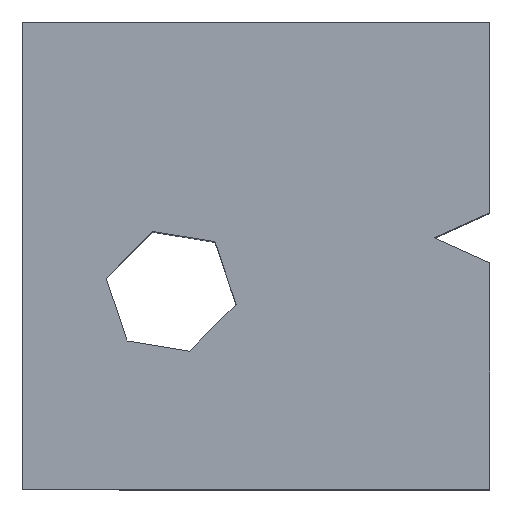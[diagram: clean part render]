
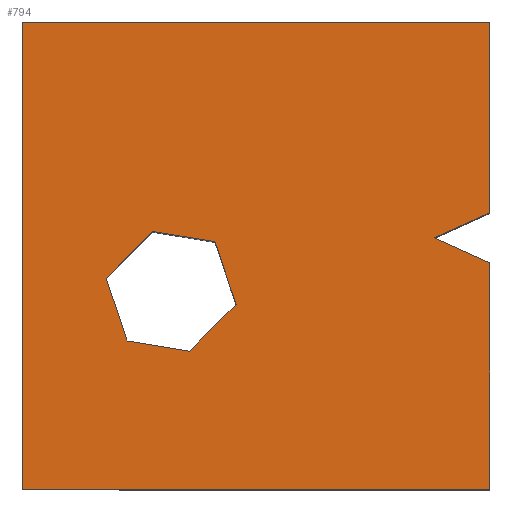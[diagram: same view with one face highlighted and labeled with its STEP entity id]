
A CAD part, top view. The second image highlights one B-rep face of the part: STEP entity #794.
In plain terms, the highlighted planar face has unit normal (0, 0, 1).
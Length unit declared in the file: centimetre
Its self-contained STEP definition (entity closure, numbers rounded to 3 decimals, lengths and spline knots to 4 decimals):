
#5 = ORIENTED_EDGE ( 'NONE', *, *, #927, .T. ) ;
#6 = FACE_BOUND ( 'NONE', #181, .T. ) ;
#19 = DIRECTION ( 'NONE',  ( -0.707, -0.707, 0. ) ) ;
#26 = CARTESIAN_POINT ( 'NONE',  ( 882.1758, 538.0468, 1000. ) ) ;
#32 = DIRECTION ( 'NONE',  ( -0.319, 0.948, 0. ) ) ;
#37 = VECTOR ( 'NONE', #112, 100. ) ;
#51 = VECTOR ( 'NONE', #872, 100. ) ;
#70 = VERTEX_POINT ( 'NONE', #121 ) ;
#83 = CARTESIAN_POINT ( 'NONE',  ( 412.1647, 529.9867, 1000. ) ) ;
#101 = DIRECTION ( 'NONE',  ( 0.91, 0.414, 0. ) ) ;
#107 = CARTESIAN_POINT ( 'NONE',  ( 224.5377, 317.1656, 1000. ) ) ;
#112 = DIRECTION ( 'NONE',  ( 0.707, 0.707, 0. ) ) ;
#114 = EDGE_CURVE ( 'NONE', #331, #305, #141, .T. ) ;
#121 = CARTESIAN_POINT ( 'NONE',  ( 357.3001, 295.4246, 1000. ) ) ;
#139 = ORIENTED_EDGE ( 'NONE', *, *, #114, .T. ) ;
#140 = CARTESIAN_POINT ( 'NONE',  ( 1000., 591.5848, 1000. ) ) ;
#141 = LINE ( 'NONE', #591, #607 ) ;
#147 = ORIENTED_EDGE ( 'NONE', *, *, #929, .T. ) ;
#161 = ORIENTED_EDGE ( 'NONE', *, *, #387, .T. ) ;
#181 = EDGE_LOOP ( 'NONE', ( #241, #1017, #795, #652, #161, #605 ) ) ;
#200 = VECTOR ( 'NONE', #582, 100. ) ;
#202 = CARTESIAN_POINT ( 'NONE',  ( 179.2902, 451.6157, 1000. ) ) ;
#207 = CARTESIAN_POINT ( 'NONE',  ( 0., 1000., 1000. ) ) ;
#236 = LINE ( 'NONE', #513, #896 ) ;
#241 = ORIENTED_EDGE ( 'NONE', *, *, #977, .T. ) ;
#248 = LINE ( 'NONE', #343, #790 ) ;
#257 = CARTESIAN_POINT ( 'NONE',  ( 1000., 1000., 1000. ) ) ;
#267 = DIRECTION ( 'NONE',  ( 0., 1., 0. ) ) ;
#275 = LINE ( 'NONE', #550, #712 ) ;
#278 = VECTOR ( 'NONE', #101, 100. ) ;
#289 = CARTESIAN_POINT ( 'NONE',  ( 0., 0., 1000. ) ) ;
#305 = VERTEX_POINT ( 'NONE', #356 ) ;
#312 = LINE ( 'NONE', #572, #200 ) ;
#325 = VERTEX_POINT ( 'NONE', #472 ) ;
#328 = CARTESIAN_POINT ( 'NONE',  ( 457.4121, 395.5366, 1000. ) ) ;
#331 = VERTEX_POINT ( 'NONE', #289 ) ;
#343 = CARTESIAN_POINT ( 'NONE',  ( 1000., 484.5089, 1000. ) ) ;
#355 = PLANE ( 'NONE',  #1006 ) ;
#356 = CARTESIAN_POINT ( 'NONE',  ( 1000., 0., 1000. ) ) ;
#363 = DIRECTION ( 'NONE',  ( 0.319, -0.948, 0. ) ) ;
#382 = VECTOR ( 'NONE', #413, 100. ) ;
#387 = EDGE_CURVE ( 'NONE', #665, #70, #275, .T. ) ;
#409 = DIRECTION ( 'NONE',  ( 1., 0., 0. ) ) ;
#413 = DIRECTION ( 'NONE',  ( -0.987, 0.162, 0. ) ) ;
#436 = CARTESIAN_POINT ( 'NONE',  ( 224.5377, 317.1656, 1000. ) ) ;
#454 = LINE ( 'NONE', #900, #863 ) ;
#470 = LINE ( 'NONE', #26, #278 ) ;
#472 = CARTESIAN_POINT ( 'NONE',  ( 882.1758, 538.0468, 1000. ) ) ;
#480 = EDGE_CURVE ( 'NONE', #682, #1111, #312, .T. ) ;
#513 = CARTESIAN_POINT ( 'NONE',  ( 1000., 1000., 1000. ) ) ;
#519 = CARTESIAN_POINT ( 'NONE',  ( 0., 1000., 1000. ) ) ;
#525 = LINE ( 'NONE', #519, #51 ) ;
#535 = FACE_OUTER_BOUND ( 'NONE', #1056, .T. ) ;
#550 = CARTESIAN_POINT ( 'NONE',  ( 457.4121, 395.5366, 1000. ) ) ;
#560 = EDGE_CURVE ( 'NONE', #70, #1100, #994, .T. ) ;
#572 = CARTESIAN_POINT ( 'NONE',  ( 279.4022, 551.7277, 1000. ) ) ;
#582 = DIRECTION ( 'NONE',  ( 0.987, -0.162, 0. ) ) ;
#591 = CARTESIAN_POINT ( 'NONE',  ( 0., 0., 1000. ) ) ;
#598 = ORIENTED_EDGE ( 'NONE', *, *, #644, .T. ) ;
#601 = ORIENTED_EDGE ( 'NONE', *, *, #723, .T. ) ;
#605 = ORIENTED_EDGE ( 'NONE', *, *, #560, .T. ) ;
#607 = VECTOR ( 'NONE', #409, 100. ) ;
#616 = DIRECTION ( 'NONE',  ( 1., 0., 0. ) ) ;
#619 = ORIENTED_EDGE ( 'NONE', *, *, #782, .T. ) ;
#622 = VERTEX_POINT ( 'NONE', #140 ) ;
#628 = VECTOR ( 'NONE', #32, 100. ) ;
#644 = EDGE_CURVE ( 'NONE', #622, #909, #236, .T. ) ;
#652 = ORIENTED_EDGE ( 'NONE', *, *, #993, .T. ) ;
#665 = VERTEX_POINT ( 'NONE', #328 ) ;
#682 = VERTEX_POINT ( 'NONE', #943 ) ;
#685 = CARTESIAN_POINT ( 'NONE',  ( 179.2902, 451.6157, 1000. ) ) ;
#701 = VECTOR ( 'NONE', #267, 100. ) ;
#706 = VERTEX_POINT ( 'NONE', #685 ) ;
#712 = VECTOR ( 'NONE', #19, 100. ) ;
#723 = EDGE_CURVE ( 'NONE', #305, #845, #1020, .T. ) ;
#739 = EDGE_CURVE ( 'NONE', #909, #946, #525, .T. ) ;
#782 = EDGE_CURVE ( 'NONE', #845, #325, #248, .T. ) ;
#790 = VECTOR ( 'NONE', #1057, 100. ) ;
#794 = ADVANCED_FACE ( 'NONE', ( #535, #6 ), #355, .T. ) ;
#795 = ORIENTED_EDGE ( 'NONE', *, *, #480, .T. ) ;
#805 = CARTESIAN_POINT ( 'NONE',  ( 1000., 1000., 1000. ) ) ;
#839 = ORIENTED_EDGE ( 'NONE', *, *, #739, .T. ) ;
#845 = VERTEX_POINT ( 'NONE', #961 ) ;
#863 = VECTOR ( 'NONE', #1068, 100. ) ;
#872 = DIRECTION ( 'NONE',  ( -1., 0., 0. ) ) ;
#885 = CARTESIAN_POINT ( 'NONE',  ( 412.1647, 529.9867, 1000. ) ) ;
#896 = VECTOR ( 'NONE', #1107, 100. ) ;
#897 = EDGE_CURVE ( 'NONE', #706, #682, #1084, .T. ) ;
#900 = CARTESIAN_POINT ( 'NONE',  ( 0., 1000., 1000. ) ) ;
#909 = VERTEX_POINT ( 'NONE', #805 ) ;
#913 = CARTESIAN_POINT ( 'NONE',  ( 357.3001, 295.4246, 1000. ) ) ;
#927 = EDGE_CURVE ( 'NONE', #946, #331, #454, .T. ) ;
#929 = EDGE_CURVE ( 'NONE', #325, #622, #470, .T. ) ;
#943 = CARTESIAN_POINT ( 'NONE',  ( 279.4022, 551.7277, 1000. ) ) ;
#946 = VERTEX_POINT ( 'NONE', #207 ) ;
#956 = DIRECTION ( 'NONE',  ( 0., 0., 1. ) ) ;
#961 = CARTESIAN_POINT ( 'NONE',  ( 1000., 484.5089, 1000. ) ) ;
#974 = LINE ( 'NONE', #885, #1066 ) ;
#977 = EDGE_CURVE ( 'NONE', #1100, #706, #1071, .T. ) ;
#993 = EDGE_CURVE ( 'NONE', #1111, #665, #974, .T. ) ;
#994 = LINE ( 'NONE', #913, #382 ) ;
#1006 = AXIS2_PLACEMENT_3D ( 'NONE', #1053, #956, #616 ) ;
#1017 = ORIENTED_EDGE ( 'NONE', *, *, #897, .T. ) ;
#1020 = LINE ( 'NONE', #257, #701 ) ;
#1053 = CARTESIAN_POINT ( 'NONE',  ( 0., 0., 1000. ) ) ;
#1056 = EDGE_LOOP ( 'NONE', ( #147, #598, #839, #5, #139, #601, #619 ) ) ;
#1057 = DIRECTION ( 'NONE',  ( -0.91, 0.414, 0. ) ) ;
#1066 = VECTOR ( 'NONE', #363, 100. ) ;
#1068 = DIRECTION ( 'NONE',  ( 0., -1., 0. ) ) ;
#1071 = LINE ( 'NONE', #107, #628 ) ;
#1084 = LINE ( 'NONE', #202, #37 ) ;
#1100 = VERTEX_POINT ( 'NONE', #436 ) ;
#1107 = DIRECTION ( 'NONE',  ( 0., 1., 0. ) ) ;
#1111 = VERTEX_POINT ( 'NONE', #83 ) ;
